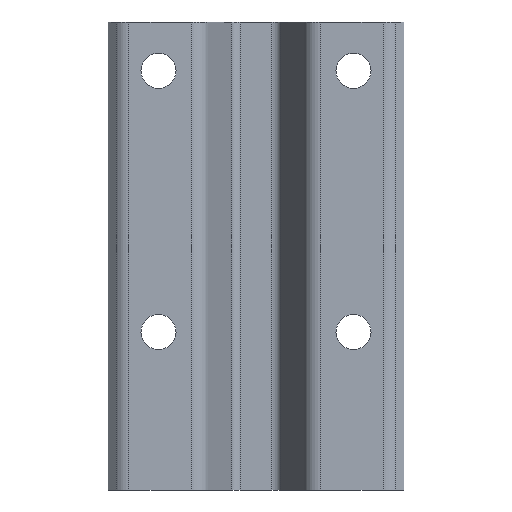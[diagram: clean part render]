
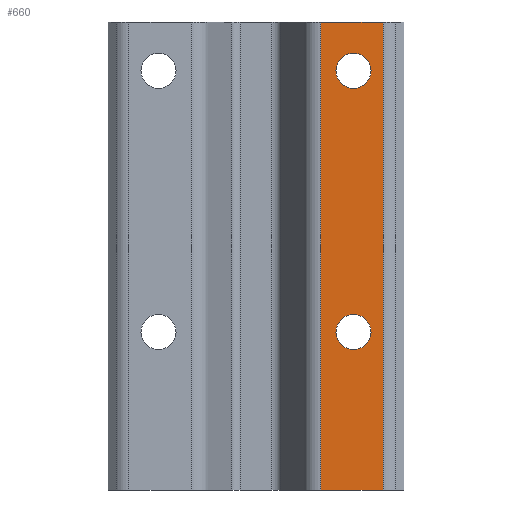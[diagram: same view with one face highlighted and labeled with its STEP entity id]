
A CAD part, front view. The second image highlights one B-rep face of the part: STEP entity #660.
In plain terms, the highlighted planar face has unit normal (0, -1, 0).
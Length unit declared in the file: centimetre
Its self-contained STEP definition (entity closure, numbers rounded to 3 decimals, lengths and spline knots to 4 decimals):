
#18=FACE_BOUND('',#93,.T.);
#19=FACE_BOUND('',#94,.T.);
#30=PLANE('',#712);
#56=FACE_OUTER_BOUND('',#92,.T.);
#92=EDGE_LOOP('',(#496,#497,#498,#499));
#93=EDGE_LOOP('',(#500));
#94=EDGE_LOOP('',(#501));
#144=LINE('',#1032,#208);
#145=LINE('',#1036,#209);
#146=LINE('',#1038,#210);
#147=LINE('',#1039,#211);
#208=VECTOR('',#834,0.1);
#209=VECTOR('',#839,0.1);
#210=VECTOR('',#840,0.1);
#211=VECTOR('',#841,0.1);
#249=CIRCLE('',#687,0.9);
#253=CIRCLE('',#693,0.9);
#281=VERTEX_POINT('',#956);
#285=VERTEX_POINT('',#968);
#306=VERTEX_POINT('',#1029);
#307=VERTEX_POINT('',#1031);
#308=VERTEX_POINT('',#1035);
#309=VERTEX_POINT('',#1037);
#347=EDGE_CURVE('',#281,#281,#249,.T.);
#353=EDGE_CURVE('',#285,#285,#253,.T.);
#383=EDGE_CURVE('',#307,#306,#144,.T.);
#385=EDGE_CURVE('',#306,#308,#145,.T.);
#386=EDGE_CURVE('',#309,#308,#146,.T.);
#387=EDGE_CURVE('',#309,#307,#147,.T.);
#496=ORIENTED_EDGE('',*,*,#385,.T.);
#497=ORIENTED_EDGE('',*,*,#386,.F.);
#498=ORIENTED_EDGE('',*,*,#387,.T.);
#499=ORIENTED_EDGE('',*,*,#383,.T.);
#500=ORIENTED_EDGE('',*,*,#347,.T.);
#501=ORIENTED_EDGE('',*,*,#353,.T.);
#660=ADVANCED_FACE('',(#56,#18,#19),#30,.T.);
#687=AXIS2_PLACEMENT_3D('',#958,#762,#763);
#693=AXIS2_PLACEMENT_3D('',#970,#776,#777);
#712=AXIS2_PLACEMENT_3D('',#1034,#837,#838);
#762=DIRECTION('center_axis',(0.,1.,0.));
#763=DIRECTION('ref_axis',(1.,0.,0.));
#776=DIRECTION('center_axis',(0.,1.,0.));
#777=DIRECTION('ref_axis',(1.,0.,0.));
#834=DIRECTION('',(0.,0.,1.));
#837=DIRECTION('center_axis',(0.,-1.,0.));
#838=DIRECTION('ref_axis',(0.,0.,-1.));
#839=DIRECTION('',(-1.,0.,0.));
#840=DIRECTION('',(0.,0.,1.));
#841=DIRECTION('',(1.,0.,0.));
#956=CARTESIAN_POINT('',(-81.8958,95.6396,21.5));
#958=CARTESIAN_POINT('Origin',(-80.9958,95.6396,21.5));
#968=CARTESIAN_POINT('',(-81.8958,95.6396,8.1));
#970=CARTESIAN_POINT('Origin',(-80.9958,95.6396,8.1));
#1029=CARTESIAN_POINT('',(-79.4706,95.6396,24.));
#1031=CARTESIAN_POINT('',(-79.4706,95.6396,0.));
#1032=CARTESIAN_POINT('',(-79.4706,95.6396,0.));
#1034=CARTESIAN_POINT('Origin',(-79.4706,95.6396,0.));
#1035=CARTESIAN_POINT('',(-82.685,95.6396,24.));
#1036=CARTESIAN_POINT('',(-82.685,95.6396,24.));
#1037=CARTESIAN_POINT('',(-82.685,95.6396,0.));
#1038=CARTESIAN_POINT('',(-82.685,95.6396,0.));
#1039=CARTESIAN_POINT('',(-82.685,95.6396,0.));
